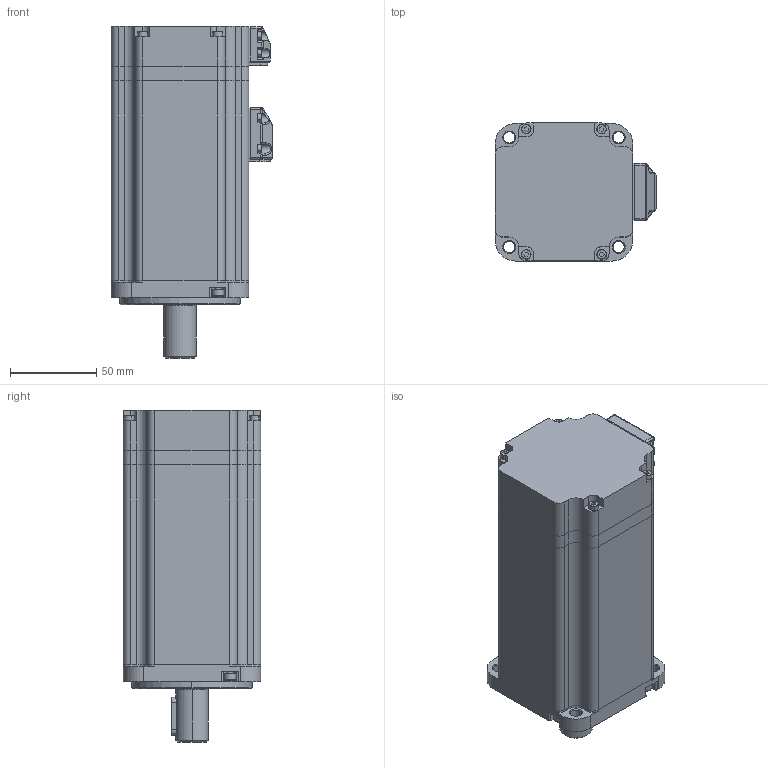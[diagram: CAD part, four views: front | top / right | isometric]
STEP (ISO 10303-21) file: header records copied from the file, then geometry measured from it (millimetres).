
FILE_DESCRIPTION (( 'STEP AP203' ), '1' );
FILE_NAME ('9.6954.STEP', '2020-08-10T03:10:11', ( 'K' ), ( 'K' ), 'SwSTEP 2.0', 'SolidWorks 2018', '' );
FILE_SCHEMA (( 'CONFIG_CONTROL_DESIGN' ));
Length unit declared in the file: millimetre
Products named in the file (1): 9.6954
Bounding box: 94 x 80 x 193 mm (x, y, z)
Volume: 341051.1 mm3; surface area: 174348.7 mm2
Topology: 30 solids, 30 shells, 1376 faces, 3460 edges, 2197 vertices
Faces by surface type: cylinder 647, plane 539, cone 102, torus 58, sphere 22, bspline 8
Entity records: 42205 total; most frequent: CARTESIAN_POINT 8144, DIRECTION 7526, ORIENTED_EDGE 6832, EDGE_CURVE 3416, AXIS2_PLACEMENT_3D 2861, VERTEX_POINT 2197, LINE 1804, VECTOR 1804
